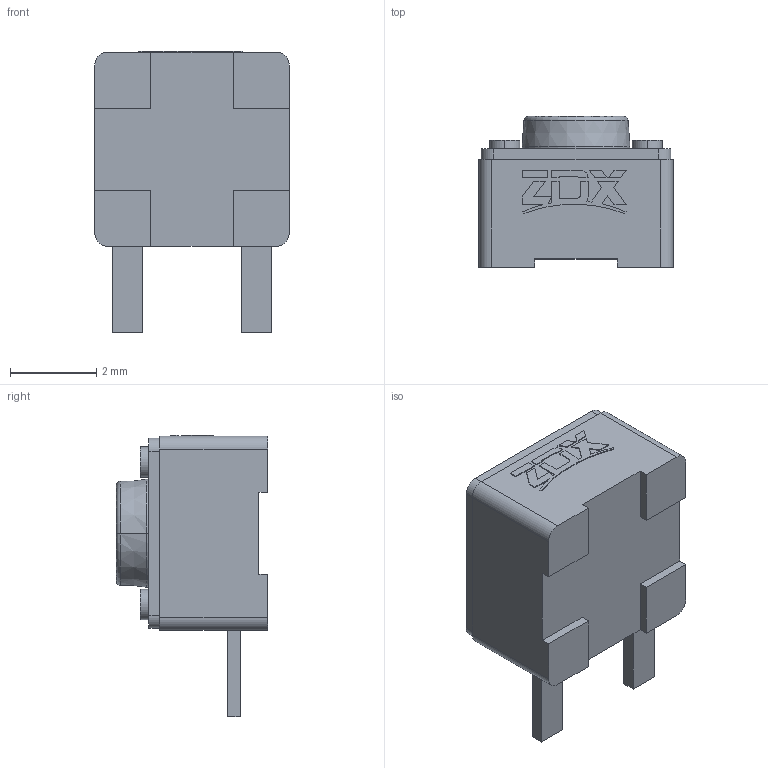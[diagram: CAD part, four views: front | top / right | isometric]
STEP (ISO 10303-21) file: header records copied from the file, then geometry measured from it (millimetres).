
FILE_DESCRIPTION((''),'2;1');
FILE_NAME('ASM0001_ASM','2024-01-06T',('WYH'),(''),'PRO/ENGINEER BY PARAMETRIC TECHNOLOGY CORPORATION, 2013040','PRO/ENGINEER BY PARAMETRIC TECHNOLOGY CORPORATION, 2013040','');
FILE_SCHEMA(('CONFIG_CONTROL_DESIGN'));
Length unit declared in the file: millimetre
Products named in the file (1): ASM0001_ASM
Bounding box: 4.5 x 3.5 x 6.52 mm (x, y, z)
Volume: 57.3 mm3; surface area: 104.1 mm2
Topology: 1 solids, 1 shells, 119 faces, 316 edges, 212 vertices
Faces by surface type: plane 86, cylinder 29, cone 2, torus 2
Entity records: 3732 total; most frequent: CARTESIAN_POINT 647, ORIENTED_EDGE 632, DIRECTION 626, EDGE_CURVE 316, VECTOR 244, LINE 244, VERTEX_POINT 212, AXIS2_PLACEMENT_3D 191
